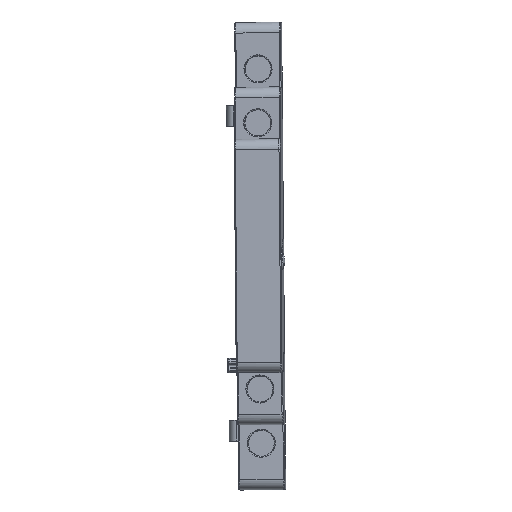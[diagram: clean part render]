
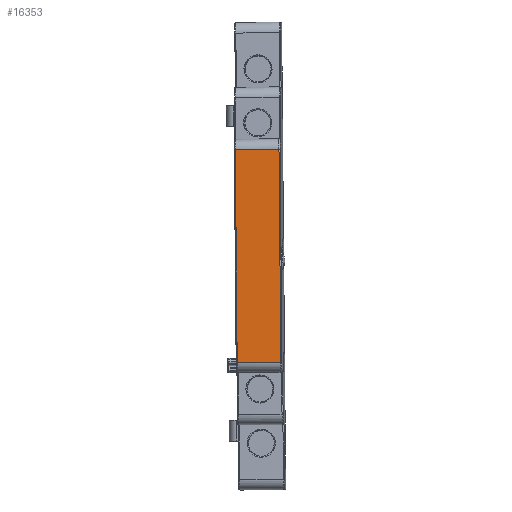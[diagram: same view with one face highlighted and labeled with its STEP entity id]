
A CAD part, top view. The second image highlights one B-rep face of the part: STEP entity #16353.
In plain terms, the highlighted planar face has unit normal (-0.018, 0, 1).
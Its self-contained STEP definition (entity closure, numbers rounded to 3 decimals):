
#125 = ORIENTED_EDGE ( 'NONE', *, *, #1419, .T. ) ;
#438 = CARTESIAN_POINT ( 'NONE',  ( 10.123, 65.49, 63.788 ) ) ;
#1047 = DIRECTION ( 'NONE',  ( 0.009, -1., 0. ) ) ;
#1149 = CARTESIAN_POINT ( 'NONE',  ( 2.081, 24.495, 63.642 ) ) ;
#1184 = VERTEX_POINT ( 'NONE', #1149 ) ;
#1228 = ORIENTED_EDGE ( 'NONE', *, *, #16688, .F. ) ;
#1361 = VERTEX_POINT ( 'NONE', #438 ) ;
#1419 = EDGE_CURVE ( 'NONE', #1184, #15940, #1630, .T. ) ;
#1472 = VECTOR ( 'NONE', #3062, 1000. ) ;
#1630 = LINE ( 'NONE', #1712, #3443 ) ;
#1712 = CARTESIAN_POINT ( 'NONE',  ( 2.081, 24.495, 63.642 ) ) ;
#2618 = AXIS2_PLACEMENT_3D ( 'NONE', #8808, #10171, #1047 ) ;
#2630 = VECTOR ( 'NONE', #6952, 1000. ) ;
#3062 = DIRECTION ( 'NONE',  ( 1., 0.017, 0.017 ) ) ;
#3079 = ORIENTED_EDGE ( 'NONE', *, *, #12876, .F. ) ;
#3443 = VECTOR ( 'NONE', #6934, 1000. ) ;
#4010 = VERTEX_POINT ( 'NONE', #16389 ) ;
#5518 = CARTESIAN_POINT ( 'NONE',  ( 10.123, 65.49, 63.788 ) ) ;
#6273 = PLANE ( 'NONE',  #2618 ) ;
#6650 = EDGE_LOOP ( 'NONE', ( #12289, #1228, #125, #3079 ) ) ;
#6934 = DIRECTION ( 'NONE',  ( 1., 0., 0.017 ) ) ;
#6952 = DIRECTION ( 'NONE',  ( -0.009, 1., 0. ) ) ;
#7443 = VECTOR ( 'NONE', #10838, 1000. ) ;
#8296 = LINE ( 'NONE', #5518, #7443 ) ;
#8808 = CARTESIAN_POINT ( 'NONE',  ( 10.709, 21.383, 63.792 ) ) ;
#9490 = CARTESIAN_POINT ( 'NONE',  ( 2.081, 24.495, 63.642 ) ) ;
#10171 = DIRECTION ( 'NONE',  ( -0.017, 0., 1. ) ) ;
#10838 = DIRECTION ( 'NONE',  ( 0.009, -1., 0. ) ) ;
#10973 = EDGE_CURVE ( 'NONE', #4010, #1361, #14629, .T. ) ;
#11652 = CARTESIAN_POINT ( 'NONE',  ( 10.481, 24.495, 63.788 ) ) ;
#12289 = ORIENTED_EDGE ( 'NONE', *, *, #10973, .F. ) ;
#12876 = EDGE_CURVE ( 'NONE', #1361, #15940, #8296, .T. ) ;
#13624 = LINE ( 'NONE', #9490, #2630 ) ;
#14053 = FACE_OUTER_BOUND ( 'NONE', #6650, .T. ) ;
#14464 = CARTESIAN_POINT ( 'NONE',  ( 1.725, 65.343, 63.642 ) ) ;
#14629 = LINE ( 'NONE', #14464, #1472 ) ;
#15940 = VERTEX_POINT ( 'NONE', #11652 ) ;
#16353 = ADVANCED_FACE ( 'NONE', ( #14053 ), #6273, .T. ) ;
#16389 = CARTESIAN_POINT ( 'NONE',  ( 1.725, 65.343, 63.642 ) ) ;
#16688 = EDGE_CURVE ( 'NONE', #1184, #4010, #13624, .T. ) ;
